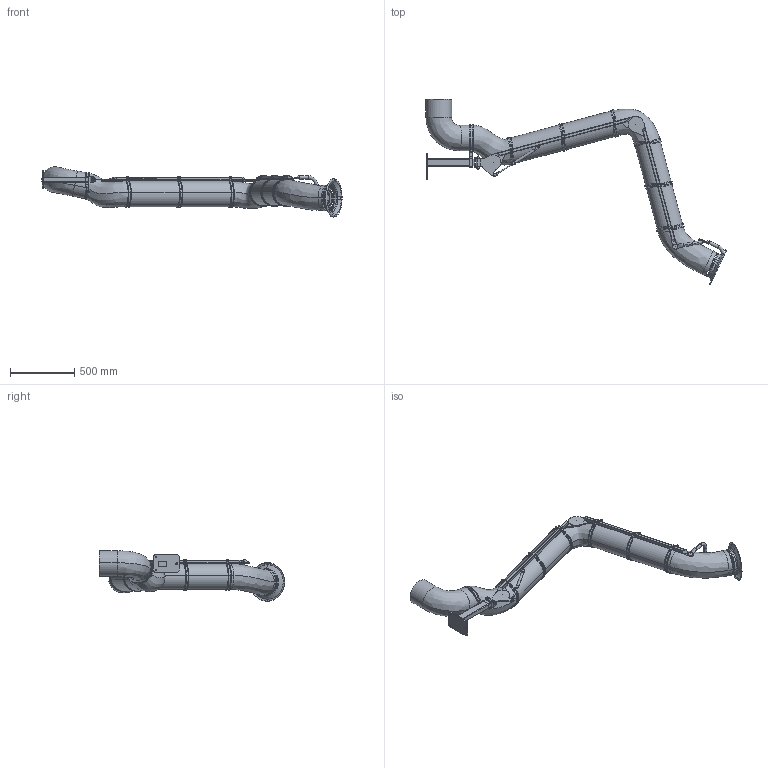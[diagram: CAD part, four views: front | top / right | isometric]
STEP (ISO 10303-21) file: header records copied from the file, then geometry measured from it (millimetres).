
FILE_DESCRIPTION((''),'2;1');
FILE_NAME('PSR_3000-200_EXC','2022-10-04T11:35:09',('Tomas Bellgran'),(''),'CREO PARAMETRIC BY PTC INC, 2018260','CREO PARAMETRIC BY PTC INC, 2018260','');
FILE_SCHEMA(('AUTOMOTIVE_DESIGN { 1 0 10303 214 1 1 1 1 }'));
Length unit declared in the file: millimetre
Products named in the file (38): 141558; 141580; 141581; 122701; 141514; 141560; 141582; 141587; 141524; 121391; 131150; 139383; 131151; 131173; 144356; 141589; 134343_AF0; G_P136_WELD-REF; 141590; 122717_LIGHT; 120127_COMPL_LIGHT; 130317; ROD_STAB_8-160-REF; 131095; 130322_AF9; 131145; 139617; 139618; 139616; 139615; 139614; 139620; 141637; 124460; 107526-11; 121000_LIGHT; 107526-20; PSR_3000-200_EXC
Assembly tree (55 placements, depth 3):
  PSR_3000-200_EXC
    141514
      141558
      141580
      141581
      122701
    141524
      141560
      141582
      141587
    121391  x4
    131150
    131173
      139383
      131151
    144356  x2
    141590
      141589
      134343_AF0
      G_P136_WELD-REF
    122717_LIGHT
    120127_COMPL_LIGHT
    130322_AF9
      130317
      ROD_STAB_8-160-REF
      131095  x2
    131145  x2
    139620
      139617  x3
      139618
      139616
      139615
      139614
    141637
    124460  x6
    107526-11  x6
    121000_LIGHT
    107526-20
Bounding box: 2336.96 x 1443.34 x 392.78 mm (x, y, z)
Volume: 102817401.2 mm3; surface area: 3047302.4 mm2
Topology: 49 solids, 49 shells, 1171 faces, 2792 edges, 1714 vertices
Faces by surface type: plane 425, cylinder 349, bspline 250, torus 78, cone 42, extrusion 25, sphere 2
Entity records: 42392 total; most frequent: CARTESIAN_POINT 16908, DIRECTION 3203, ORIENTED_EDGE 2986, PRESENTATION_STYLE_ASSIGNMENT 2093, STYLED_ITEM 2066, CURVE_STYLE 1508, EDGE_CURVE 1493, AXIS2_PLACEMENT_3D 1256
